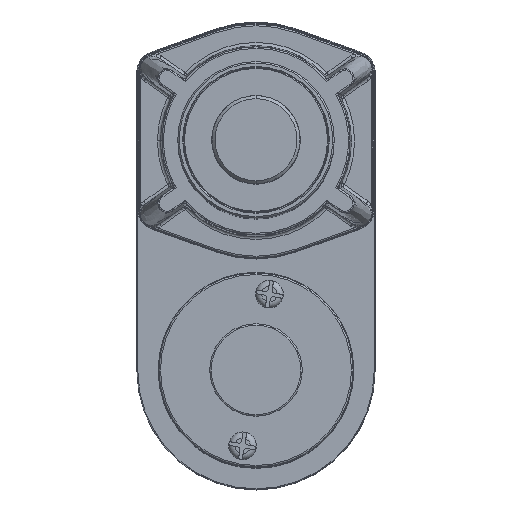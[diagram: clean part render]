
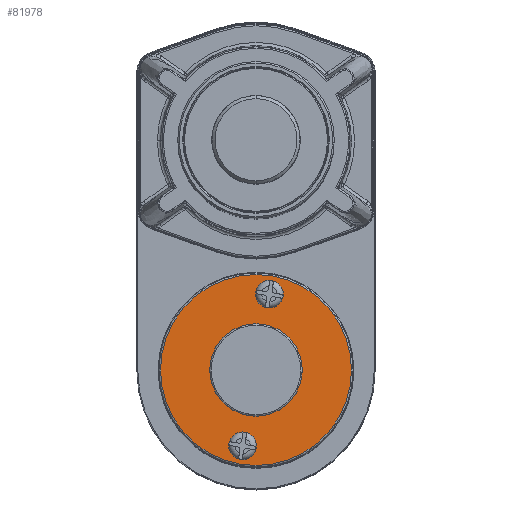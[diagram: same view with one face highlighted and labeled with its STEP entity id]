
A CAD part, top view. The second image highlights one B-rep face of the part: STEP entity #81978.
In plain terms, the highlighted planar face has unit normal (0, 0, 1).
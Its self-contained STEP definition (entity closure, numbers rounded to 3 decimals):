
#27 = EDGE_LOOP ( 'NONE', ( #10988, #75810 ) ) ;
#520 = FACE_BOUND ( 'NONE', #27, .T. ) ;
#1802 = DIRECTION ( 'NONE',  ( -0.174, -0.985, 0. ) ) ;
#1850 = CARTESIAN_POINT ( 'NONE',  ( -17.749, -46.204, 284.9 ) ) ;
#4120 = DIRECTION ( 'NONE',  ( 0., 0., 1. ) ) ;
#4348 = ORIENTED_EDGE ( 'NONE', *, *, #63314, .F. ) ;
#5617 = FACE_OUTER_BOUND ( 'NONE', #46546, .T. ) ;
#8131 = DIRECTION ( 'NONE',  ( 0., 0., 1. ) ) ;
#8458 = AXIS2_PLACEMENT_3D ( 'NONE', #1850, #35213, #66115 ) ;
#8523 = EDGE_CURVE ( 'NONE', #35866, #78801, #70613, .T. ) ;
#8558 = CARTESIAN_POINT ( 'NONE',  ( -17.749, -46.204, 284.9 ) ) ;
#9319 = DIRECTION ( 'NONE',  ( -0.174, -0.985, 0. ) ) ;
#10626 = CIRCLE ( 'NONE', #66019, 4.5 ) ;
#10988 = ORIENTED_EDGE ( 'NONE', *, *, #8523, .F. ) ;
#12786 = FACE_BOUND ( 'NONE', #13829, .T. ) ;
#13829 = EDGE_LOOP ( 'NONE', ( #64263, #4348 ) ) ;
#14523 = ORIENTED_EDGE ( 'NONE', *, *, #81119, .T. ) ;
#15675 = CARTESIAN_POINT ( 'NONE',  ( -22.871, -75.256, 284.9 ) ) ;
#15848 = CIRCLE ( 'NONE', #50996, 31. ) ;
#16512 = EDGE_CURVE ( 'NONE', #78801, #35866, #75753, .T. ) ;
#17918 = AXIS2_PLACEMENT_3D ( 'NONE', #36588, #55601, #37427 ) ;
#18524 = AXIS2_PLACEMENT_3D ( 'NONE', #57377, #4120, #24373 ) ;
#20581 = CARTESIAN_POINT ( 'NONE',  ( -23.132, -76.733, 284.9 ) ) ;
#21219 = DIRECTION ( 'NONE',  ( 0., 0., 1. ) ) ;
#23652 = CARTESIAN_POINT ( 'NONE',  ( -17.749, -46.204, 284.9 ) ) ;
#24373 = DIRECTION ( 'NONE',  ( -0.174, -0.985, 0. ) ) ;
#25038 = PLANE ( 'NONE',  #69566 ) ;
#27119 = CARTESIAN_POINT ( 'NONE',  ( -13.407, -21.584, 284.9 ) ) ;
#29801 = EDGE_CURVE ( 'NONE', #44965, #60342, #15848, .T. ) ;
#34328 = CARTESIAN_POINT ( 'NONE',  ( -13.407, -21.584, 284.9 ) ) ;
#35213 = DIRECTION ( 'NONE',  ( 0., 0., 1. ) ) ;
#35866 = VERTEX_POINT ( 'NONE', #51723 ) ;
#36016 = CARTESIAN_POINT ( 'NONE',  ( -12.626, -17.152, 284.9 ) ) ;
#36588 = CARTESIAN_POINT ( 'NONE',  ( -22.09, -70.824, 284.9 ) ) ;
#37427 = DIRECTION ( 'NONE',  ( -0.174, -0.985, 0. ) ) ;
#39854 = DIRECTION ( 'NONE',  ( -0.174, -0.985, 0. ) ) ;
#42054 = CARTESIAN_POINT ( 'NONE',  ( -21.308, -66.393, 284.9 ) ) ;
#42780 = ORIENTED_EDGE ( 'NONE', *, *, #29801, .T. ) ;
#44062 = ORIENTED_EDGE ( 'NONE', *, *, #44515, .F. ) ;
#44515 = EDGE_CURVE ( 'NONE', #76752, #79655, #65788, .T. ) ;
#44965 = VERTEX_POINT ( 'NONE', #65177 ) ;
#46178 = DIRECTION ( 'NONE',  ( 0., 0., 1. ) ) ;
#46272 = CIRCLE ( 'NONE', #17918, 4.5 ) ;
#46546 = EDGE_LOOP ( 'NONE', ( #14523, #42780 ) ) ;
#50996 = AXIS2_PLACEMENT_3D ( 'NONE', #8558, #21219, #1802 ) ;
#51723 = CARTESIAN_POINT ( 'NONE',  ( -20.353, -60.976, 284.9 ) ) ;
#52003 = ORIENTED_EDGE ( 'NONE', *, *, #76365, .F. ) ;
#55202 = AXIS2_PLACEMENT_3D ( 'NONE', #27119, #46178, #39854 ) ;
#55601 = DIRECTION ( 'NONE',  ( 0., 0., 1. ) ) ;
#55939 = AXIS2_PLACEMENT_3D ( 'NONE', #23652, #60466, #9319 ) ;
#57182 = DIRECTION ( 'NONE',  ( -0.174, -0.985, 0. ) ) ;
#57262 = DIRECTION ( 'NONE',  ( -0.174, -0.985, 0. ) ) ;
#57377 = CARTESIAN_POINT ( 'NONE',  ( -22.09, -70.824, 284.9 ) ) ;
#58398 = DIRECTION ( 'NONE',  ( 0., 0., 1. ) ) ;
#60342 = VERTEX_POINT ( 'NONE', #20581 ) ;
#60451 = CARTESIAN_POINT ( 'NONE',  ( -15.144, -31.432, 284.9 ) ) ;
#60466 = DIRECTION ( 'NONE',  ( 0., 0., 1. ) ) ;
#61960 = EDGE_LOOP ( 'NONE', ( #52003, #44062 ) ) ;
#61967 = CIRCLE ( 'NONE', #55202, 4.5 ) ;
#63314 = EDGE_CURVE ( 'NONE', #69008, #67257, #61967, .T. ) ;
#63332 = EDGE_CURVE ( 'NONE', #67257, #69008, #10626, .T. ) ;
#63549 = AXIS2_PLACEMENT_3D ( 'NONE', #82656, #70397, #57262 ) ;
#64263 = ORIENTED_EDGE ( 'NONE', *, *, #63332, .F. ) ;
#65177 = CARTESIAN_POINT ( 'NONE',  ( -12.365, -15.675, 284.9 ) ) ;
#65788 = CIRCLE ( 'NONE', #18524, 4.5 ) ;
#66019 = AXIS2_PLACEMENT_3D ( 'NONE', #34328, #8131, #78760 ) ;
#66115 = DIRECTION ( 'NONE',  ( -0.174, -0.985, 0. ) ) ;
#67257 = VERTEX_POINT ( 'NONE', #36016 ) ;
#68079 = CIRCLE ( 'NONE', #55939, 31. ) ;
#69008 = VERTEX_POINT ( 'NONE', #74041 ) ;
#69566 = AXIS2_PLACEMENT_3D ( 'NONE', #82582, #58398, #57182 ) ;
#70397 = DIRECTION ( 'NONE',  ( 0., 0., 1. ) ) ;
#70613 = CIRCLE ( 'NONE', #8458, 15. ) ;
#74041 = CARTESIAN_POINT ( 'NONE',  ( -14.189, -26.016, 284.9 ) ) ;
#75753 = CIRCLE ( 'NONE', #63549, 15. ) ;
#75810 = ORIENTED_EDGE ( 'NONE', *, *, #16512, .F. ) ;
#76365 = EDGE_CURVE ( 'NONE', #79655, #76752, #46272, .T. ) ;
#76752 = VERTEX_POINT ( 'NONE', #15675 ) ;
#78760 = DIRECTION ( 'NONE',  ( -0.174, -0.985, 0. ) ) ;
#78801 = VERTEX_POINT ( 'NONE', #60451 ) ;
#79655 = VERTEX_POINT ( 'NONE', #42054 ) ;
#81119 = EDGE_CURVE ( 'NONE', #60342, #44965, #68079, .T. ) ;
#81978 = ADVANCED_FACE ( 'NONE', ( #83001, #12786, #5617, #520 ), #25038, .T. ) ;
#82582 = CARTESIAN_POINT ( 'NONE',  ( -2.976, -48.809, 284.9 ) ) ;
#82656 = CARTESIAN_POINT ( 'NONE',  ( -17.749, -46.204, 284.9 ) ) ;
#83001 = FACE_BOUND ( 'NONE', #61960, .T. ) ;
